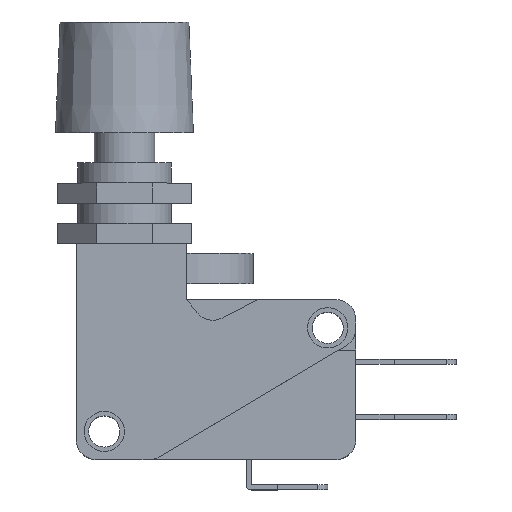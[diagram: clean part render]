
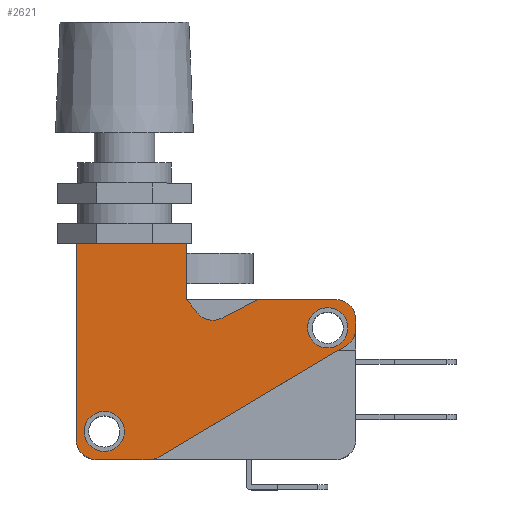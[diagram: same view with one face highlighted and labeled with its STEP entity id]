
A CAD part, top view. The second image highlights one B-rep face of the part: STEP entity #2621.
In plain terms, the highlighted planar face has unit normal (0, 0, 1).
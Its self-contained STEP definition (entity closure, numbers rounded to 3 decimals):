
#48=FACE_BOUND('',#545,.T.);
#49=FACE_BOUND('',#546,.T.);
#101=CIRCLE('',#2799,2.);
#103=CIRCLE('',#2802,2.);
#106=CIRCLE('',#2806,2.);
#108=CIRCLE('',#2810,2.);
#110=CIRCLE('',#2814,2.);
#112=CIRCLE('',#2818,2.);
#114=CIRCLE('',#2823,2.);
#376=FACE_OUTER_BOUND('',#544,.T.);
#544=EDGE_LOOP('',(#2322,#2323,#2324,#2325,#2326,#2327,#2328,#2329,#2330,
#2331,#2332,#2333,#2334,#2335));
#545=EDGE_LOOP('',(#2336));
#546=EDGE_LOOP('',(#2337));
#794=LINE('',#4107,#1073);
#805=LINE('',#4154,#1084);
#809=LINE('',#4166,#1088);
#813=LINE('',#4178,#1092);
#817=LINE('',#4188,#1096);
#820=LINE('',#4196,#1099);
#824=LINE('',#4208,#1103);
#827=LINE('',#4212,#1106);
#828=LINE('',#4214,#1107);
#1073=VECTOR('',#3379,11.);
#1084=VECTOR('',#3428,0.863);
#1088=VECTOR('',#3440,21.585);
#1092=VECTOR('',#3452,5.25);
#1096=VECTOR('',#3464,19.5);
#1099=VECTOR('',#3469,1.624);
#1103=VECTOR('',#3481,3.946);
#1106=VECTOR('',#3486,7.8);
#1107=VECTOR('',#3489,5.6);
#1308=VERTEX_POINT('',#4104);
#1309=VERTEX_POINT('',#4106);
#1317=VERTEX_POINT('',#4132);
#1319=VERTEX_POINT('',#4137);
#1323=VERTEX_POINT('',#4145);
#1324=VERTEX_POINT('',#4147);
#1326=VERTEX_POINT('',#4153);
#1328=VERTEX_POINT('',#4159);
#1330=VERTEX_POINT('',#4165);
#1332=VERTEX_POINT('',#4171);
#1334=VERTEX_POINT('',#4177);
#1336=VERTEX_POINT('',#4183);
#1339=VERTEX_POINT('',#4193);
#1340=VERTEX_POINT('',#4195);
#1342=VERTEX_POINT('',#4201);
#1344=VERTEX_POINT('',#4207);
#1633=EDGE_CURVE('',#1309,#1308,#794,.T.);
#1644=EDGE_CURVE('',#1317,#1317,#101,.T.);
#1646=EDGE_CURVE('',#1319,#1319,#103,.T.);
#1650=EDGE_CURVE('',#1324,#1323,#106,.T.);
#1653=EDGE_CURVE('',#1326,#1324,#805,.T.);
#1656=EDGE_CURVE('',#1328,#1326,#108,.T.);
#1659=EDGE_CURVE('',#1330,#1328,#809,.T.);
#1662=EDGE_CURVE('',#1332,#1330,#110,.T.);
#1665=EDGE_CURVE('',#1334,#1332,#813,.T.);
#1668=EDGE_CURVE('',#1336,#1334,#112,.T.);
#1671=EDGE_CURVE('',#1308,#1336,#817,.T.);
#1674=EDGE_CURVE('',#1340,#1339,#820,.T.);
#1677=EDGE_CURVE('',#1342,#1340,#114,.T.);
#1680=EDGE_CURVE('',#1344,#1342,#824,.T.);
#1683=EDGE_CURVE('',#1323,#1344,#827,.T.);
#1684=EDGE_CURVE('',#1339,#1309,#828,.T.);
#2322=ORIENTED_EDGE('',*,*,#1683,.T.);
#2323=ORIENTED_EDGE('',*,*,#1680,.T.);
#2324=ORIENTED_EDGE('',*,*,#1677,.T.);
#2325=ORIENTED_EDGE('',*,*,#1674,.T.);
#2326=ORIENTED_EDGE('',*,*,#1684,.T.);
#2327=ORIENTED_EDGE('',*,*,#1633,.T.);
#2328=ORIENTED_EDGE('',*,*,#1671,.T.);
#2329=ORIENTED_EDGE('',*,*,#1668,.T.);
#2330=ORIENTED_EDGE('',*,*,#1665,.T.);
#2331=ORIENTED_EDGE('',*,*,#1662,.T.);
#2332=ORIENTED_EDGE('',*,*,#1659,.T.);
#2333=ORIENTED_EDGE('',*,*,#1656,.T.);
#2334=ORIENTED_EDGE('',*,*,#1653,.T.);
#2335=ORIENTED_EDGE('',*,*,#1650,.T.);
#2336=ORIENTED_EDGE('',*,*,#1644,.T.);
#2337=ORIENTED_EDGE('',*,*,#1646,.T.);
#2485=PLANE('',#2826);
#2621=ADVANCED_FACE('',(#376,#48,#49),#2485,.T.);
#2799=AXIS2_PLACEMENT_3D('',#4133,#3407,#3408);
#2802=AXIS2_PLACEMENT_3D('',#4138,#3413,#3414);
#2806=AXIS2_PLACEMENT_3D('',#4148,#3422,#3423);
#2810=AXIS2_PLACEMENT_3D('',#4160,#3434,#3435);
#2814=AXIS2_PLACEMENT_3D('',#4172,#3446,#3447);
#2818=AXIS2_PLACEMENT_3D('',#4184,#3458,#3459);
#2823=AXIS2_PLACEMENT_3D('',#4202,#3475,#3476);
#2826=AXIS2_PLACEMENT_3D('',#4213,#3487,#3488);
#3379=DIRECTION('',(-1.,0.,0.));
#3407=DIRECTION('center_axis',(0.,0.,-1.));
#3408=DIRECTION('ref_axis',(-1.,0.,0.));
#3413=DIRECTION('center_axis',(0.,0.,-1.));
#3414=DIRECTION('ref_axis',(-1.,0.,0.));
#3422=DIRECTION('center_axis',(0.,0.,1.));
#3423=DIRECTION('ref_axis',(1.,0.,0.));
#3428=DIRECTION('',(0.,1.,0.));
#3434=DIRECTION('center_axis',(0.,0.,1.));
#3435=DIRECTION('ref_axis',(0.511,-0.859,0.));
#3440=DIRECTION('',(0.859,0.511,0.));
#3446=DIRECTION('center_axis',(0.,0.,1.));
#3447=DIRECTION('ref_axis',(0.,-1.,0.));
#3452=DIRECTION('',(1.,0.,0.));
#3458=DIRECTION('center_axis',(0.,0.,1.));
#3459=DIRECTION('ref_axis',(-1.,0.,0.));
#3464=DIRECTION('',(0.,-1.,0.));
#3469=DIRECTION('',(-0.616,0.788,0.));
#3475=DIRECTION('center_axis',(0.,0.,-1.));
#3476=DIRECTION('ref_axis',(0.788,0.616,0.));
#3481=DIRECTION('',(-0.887,-0.462,0.));
#3486=DIRECTION('',(-1.,0.,0.));
#3487=DIRECTION('center_axis',(0.,0.,1.));
#3488=DIRECTION('ref_axis',(1.,0.,0.));
#3489=DIRECTION('',(0.,1.,0.));
#4104=CARTESIAN_POINT('',(-13.9,13.55,6.25));
#4106=CARTESIAN_POINT('',(-2.9,13.55,6.25));
#4107=CARTESIAN_POINT('',(-2.9,13.55,6.25));
#4132=CARTESIAN_POINT('',(13.1,5.15,6.25));
#4133=CARTESIAN_POINT('Origin',(11.1,5.15,6.25));
#4137=CARTESIAN_POINT('',(-9.1,-5.15,6.25));
#4138=CARTESIAN_POINT('Origin',(-11.1,-5.15,6.25));
#4145=CARTESIAN_POINT('',(11.9,7.95,6.25));
#4147=CARTESIAN_POINT('',(13.9,5.95,6.25));
#4148=CARTESIAN_POINT('Origin',(11.9,5.95,6.25));
#4153=CARTESIAN_POINT('',(13.9,5.087,6.25));
#4154=CARTESIAN_POINT('',(13.9,5.087,6.25));
#4159=CARTESIAN_POINT('',(12.923,3.368,6.25));
#4160=CARTESIAN_POINT('Origin',(11.9,5.087,6.25));
#4165=CARTESIAN_POINT('',(-5.627,-7.669,6.25));
#4166=CARTESIAN_POINT('',(-5.627,-7.669,6.25));
#4171=CARTESIAN_POINT('',(-6.65,-7.95,6.25));
#4172=CARTESIAN_POINT('Origin',(-6.65,-5.95,6.25));
#4177=CARTESIAN_POINT('',(-11.9,-7.95,6.25));
#4178=CARTESIAN_POINT('',(-11.9,-7.95,6.25));
#4183=CARTESIAN_POINT('',(-13.9,-5.95,6.25));
#4184=CARTESIAN_POINT('Origin',(-11.9,-5.95,6.25));
#4188=CARTESIAN_POINT('',(-13.9,13.55,6.25));
#4193=CARTESIAN_POINT('',(-2.9,7.95,6.25));
#4195=CARTESIAN_POINT('',(-1.9,6.67,6.25));
#4196=CARTESIAN_POINT('',(-1.9,6.67,6.25));
#4201=CARTESIAN_POINT('',(0.6,6.127,6.25));
#4202=CARTESIAN_POINT('Origin',(-0.324,7.901,6.25));
#4207=CARTESIAN_POINT('',(4.1,7.95,6.25));
#4208=CARTESIAN_POINT('',(4.1,7.95,6.25));
#4212=CARTESIAN_POINT('',(11.9,7.95,6.25));
#4213=CARTESIAN_POINT('Origin',(-1.887,1.628,6.25));
#4214=CARTESIAN_POINT('',(-2.9,7.95,6.25));
